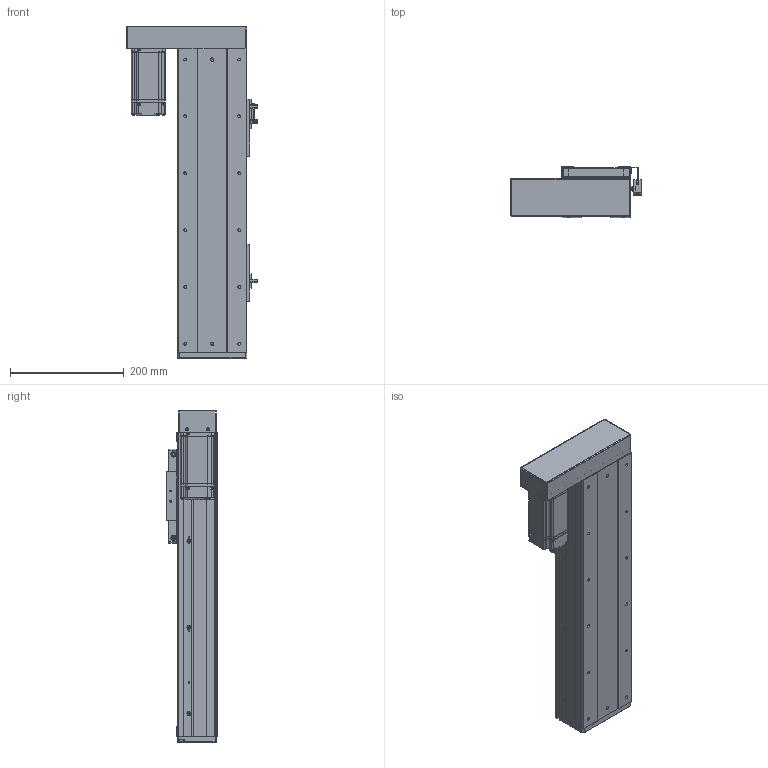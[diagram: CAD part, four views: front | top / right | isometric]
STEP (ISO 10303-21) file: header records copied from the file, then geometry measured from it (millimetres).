
FILE_DESCRIPTION (( 'STEP AP203' ), '1' );
FILE_NAME ('RY120F-L1620-300-LK.SLDASM_300.step', '2021-03-02T08:03:28', ( '盈信电脑' ), ( '东莞市道滘镇水果街19号' ), 'SwSTEP 2.0', 'SolidWorks 2012', '' );
FILE_SCHEMA (( 'CONFIG_CONTROL_DESIGN' ));
Products named in the file (18): RY120F酘衵殏萇儂欶(200W); RY120F酘衵殏萇儂啣(200W PCD70 M4); RY120F-L1620-300-LK.SLDASM_300; FY120F詩湍揤踡輸; 15; 672嫖萇羲壽假蚾釱; RY80俋离覜茼え; 覜茼ん672; RY120F綴裔啣(臏璃ㄘ; RY120F-詩湍幗謫粣; RY120F转折电机端支撑座; 滅袉蝶18-24; RY120F祥凄詩滅鳥裔; RT120F-臏賑輸奻釱; RT120F-300-倰第裔啣-LK; RT120F-300-倰第菁釱-LK; RT120F-臏賑輸 16蹟譫; RY120F滅鳥詩湍-300-LK
Assembly tree (23 placements, depth 2):
  RY120F-L1620-300-LK.SLDASM_300
    RT120F-300-倰第菁釱-LK
    RT120F-300-倰第裔啣-LK  x2
    RY120F滅鳥詩湍-300-LK
    RT120F-臏賑輸 16蹟譫
    RT120F-臏賑輸奻釱
    RY120F转折电机端支撑座
    RY120F祥凄詩滅鳥裔
    滅袉蝶18-24  x2
    RY120F綴裔啣(臏璃ㄘ
    RY120F-詩湍幗謫粣
    覜茼ん672  x3
    672嫖萇羲壽假蚾釱  x2
    RY80俋离覜茼え
    FY120F詩湍揤踡輸  x2
    15
    RY120F酘衵殏萇儂啣(200W PCD70 M4)
    RY120F酘衵殏萇儂欶(200W)
Bounding box: 229.9 x 89 x 584 mm (x, y, z)
Volume: 2498253.1 mm3; surface area: 888755.5 mm2
Topology: 23 solids, 23 shells, 2027 faces, 5437 edges, 3473 vertices
Faces by surface type: plane 896, cylinder 892, cone 213, bspline 26
Entity records: 56751 total; most frequent: CARTESIAN_POINT 10516, DIRECTION 9549, ORIENTED_EDGE 8946, EDGE_CURVE 4473, AXIS2_PLACEMENT_3D 3438, VERTEX_POINT 2917, VECTOR 2673, LINE 2673
